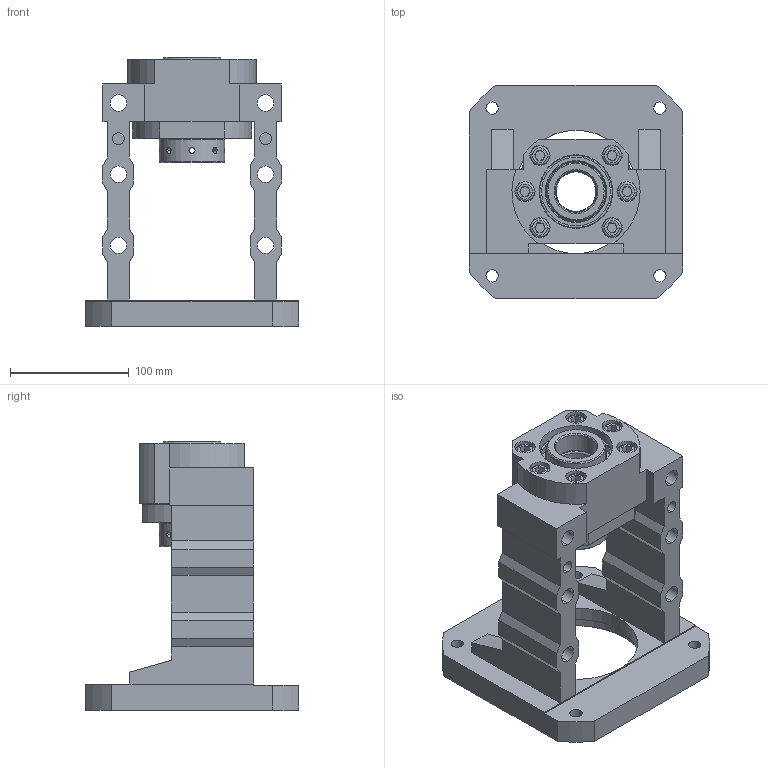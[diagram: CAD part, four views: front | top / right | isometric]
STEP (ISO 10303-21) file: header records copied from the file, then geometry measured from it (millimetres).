
FILE_DESCRIPTION (( 'STEP AP203' ), '1' );
FILE_NAME ('MBCS35-H²Õ¦X¥ó.STEP', '2022-10-20T06:40:14', ( '' ), ( '' ), 'SwSTEP 2.0', 'SolidWorks 2018', '' );
FILE_SCHEMA (( 'CONFIG_CONTROL_DESIGN' ));
Length unit declared in the file: millimetre
Products named in the file (1): MBCS35-H組合件
Bounding box: 180 x 180 x 226 mm (x, y, z)
Surface area: 236825.1 mm2 (no closed solid volume)
Topology: 0 solids, 22 shells, 352 faces, 985 edges, 649 vertices
Faces by surface type: plane 132, cylinder 122, cone 66, torus 20, bspline 12
Entity records: 26884 total; most frequent: CARTESIAN_POINT 17819, DIRECTION 1910, ORIENTED_EDGE 1730, EDGE_CURVE 977, AXIS2_PLACEMENT_3D 722, VERTEX_POINT 649, LINE 466, VECTOR 466
